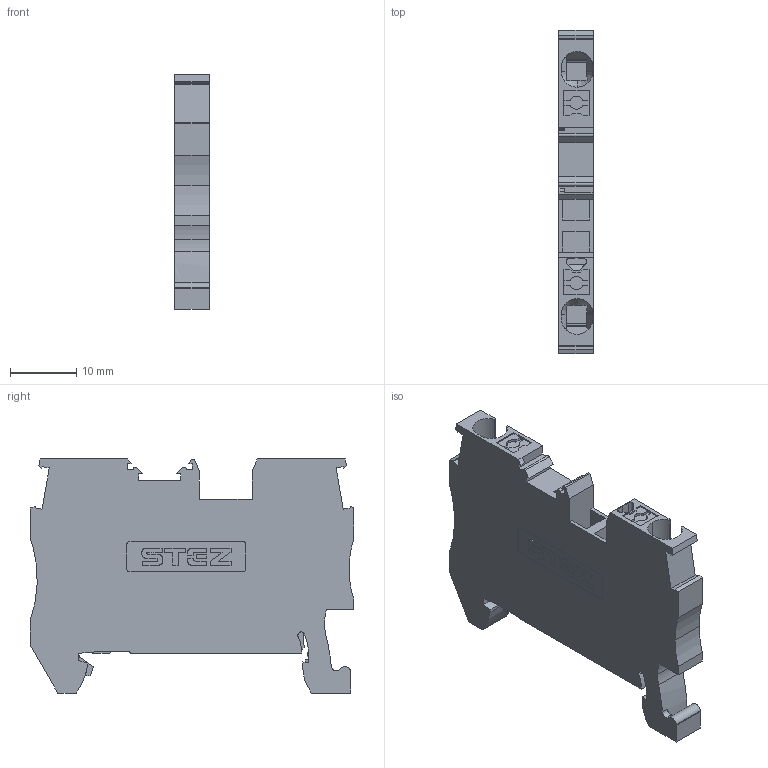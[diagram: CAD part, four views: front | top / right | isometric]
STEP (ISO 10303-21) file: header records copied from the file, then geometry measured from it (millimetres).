
FILE_DESCRIPTION(('TFLEX Exchange Step'),'2;1');
FILE_NAME('14000012_КНБ_2,5-2-PE.stp', '2025-06-24T10:38:49+03:00',('MVarava'),('Unknown organisation'),'TFLEX Exchange 2023.0','T-FLEX CAD','Unknown authorisation');
FILE_SCHEMA( ('AUTOMOTIVE_DESIGN { 1 0 10303 214 1 1 1 1 }') );
Length unit declared in the file: millimetre
Products named in the file (1): Nodes
Bounding box: 5.15 x 48.8 x 35.35 mm (x, y, z)
Volume: 6063.8 mm3; surface area: 4700.9 mm2
Topology: 1 solids, 1 shells, 436 faces, 1264 edges, 840 vertices
Faces by surface type: plane 223, cylinder 207, cone 4, extrusion 2
Entity records: 15102 total; most frequent: CARTESIAN_POINT 3399, ORIENTED_EDGE 2528, DIRECTION 2360, EDGE_CURVE 1264, VERTEX_POINT 840, AXIS2_PLACEMENT_3D 802, VECTOR 756, LINE 754
